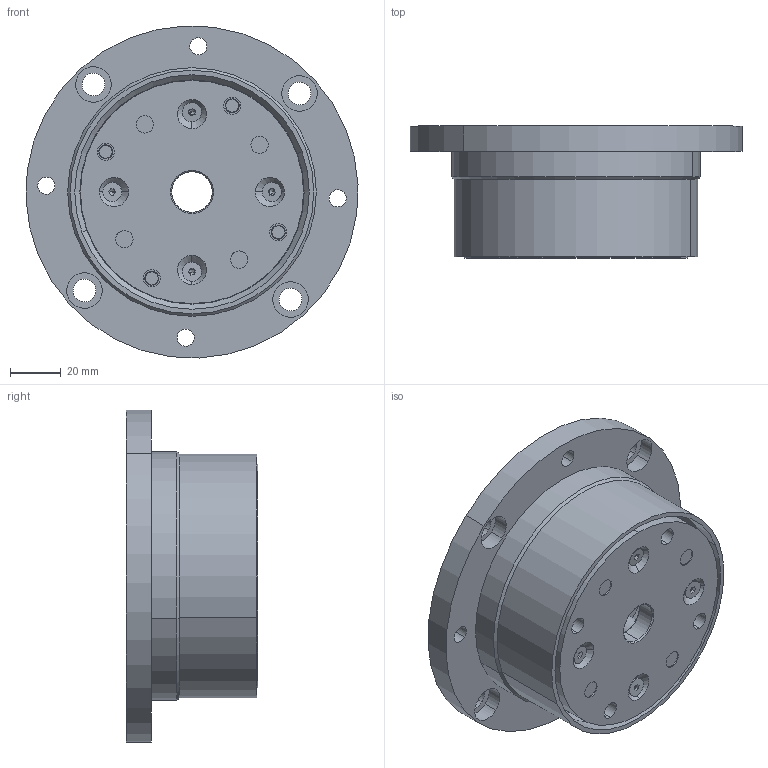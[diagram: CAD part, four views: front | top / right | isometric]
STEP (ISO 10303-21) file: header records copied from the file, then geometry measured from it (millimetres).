
FILE_DESCRIPTION (( 'STEP AP203' ), '1' );
FILE_NAME ('FB-110-088.STEP', '2024-08-08T14:01:39', ( '' ), ( '' ), 'SwSTEP 2.0', 'SolidWorks 2020', '' );
FILE_SCHEMA (( 'CONFIG_CONTROL_DESIGN' ));
Length unit declared in the file: millimetre
Products named in the file (1): FB-110-088
Bounding box: 130.88 x 52 x 130.88 mm (x, y, z)
Surface area: 71530 mm2 (no closed solid volume)
Topology: 0 solids, 34 shells, 270 faces, 824 edges, 538 vertices
Faces by surface type: plane 110, cylinder 98, cone 46, torus 16
Entity records: 9182 total; most frequent: DIRECTION 1708, CARTESIAN_POINT 1657, ORIENTED_EDGE 1284, EDGE_CURVE 800, AXIS2_PLACEMENT_3D 653, VERTEX_POINT 538, VECTOR 402, LINE 402
